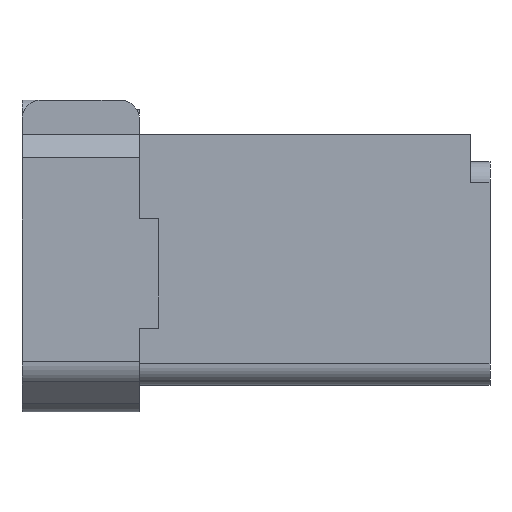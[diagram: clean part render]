
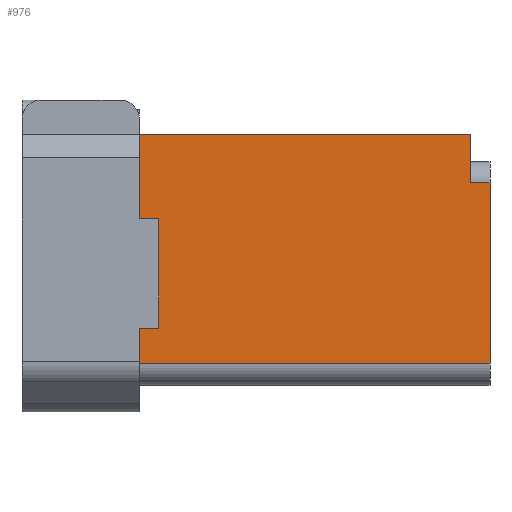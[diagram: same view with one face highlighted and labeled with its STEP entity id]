
A CAD part, front view. The second image highlights one B-rep face of the part: STEP entity #976.
In plain terms, the highlighted planar face has unit normal (0, -1, 0).
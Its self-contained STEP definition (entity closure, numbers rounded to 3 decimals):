
#247=CARTESIAN_POINT('Vertex',(-17.2,-13.9,-2.85)) ;
#250=CARTESIAN_POINT('Line Origine',(-17.2,-13.9,0.)) ;
#254=CARTESIAN_POINT('Vertex',(-17.2,-13.9,2.85)) ;
#269=CARTESIAN_POINT('Line Origine',(-17.7,-13.9,-2.85)) ;
#273=CARTESIAN_POINT('Vertex',(-18.2,-13.9,-2.85)) ;
#302=CARTESIAN_POINT('Line Origine',(-17.7,-13.9,2.85)) ;
#306=CARTESIAN_POINT('Vertex',(-18.2,-13.9,2.85)) ;
#333=CARTESIAN_POINT('Line Origine',(-18.2,-13.9,5.025)) ;
#337=CARTESIAN_POINT('Vertex',(-18.2,-13.9,7.2)) ;
#822=CARTESIAN_POINT('Vertex',(-1.,-13.9,7.2)) ;
#825=CARTESIAN_POINT('Line Origine',(-1.,-13.9,5.95)) ;
#829=CARTESIAN_POINT('Vertex',(-1.,-13.9,4.7)) ;
#881=CARTESIAN_POINT('Line Origine',(-9.1,-13.9,4.7)) ;
#885=CARTESIAN_POINT('Vertex',(0.,-13.9,4.7)) ;
#905=CARTESIAN_POINT('Line Origine',(-9.6,-13.9,7.2)) ;
#940=CARTESIAN_POINT('Axis2P3D Location',(0.,-13.9,-5.8)) ;
#945=CARTESIAN_POINT('Line Origine',(0.,-13.9,0.)) ;
#949=CARTESIAN_POINT('Vertex',(0.,-13.9,-4.7)) ;
#952=CARTESIAN_POINT('Line Origine',(-18.2,-13.9,-3.775)) ;
#956=CARTESIAN_POINT('Vertex',(-18.2,-13.9,-4.7)) ;
#959=CARTESIAN_POINT('Line Origine',(-9.1,-13.9,-4.7)) ;
#251=DIRECTION('Vector Direction',(0.,0.,1.)) ;
#270=DIRECTION('Vector Direction',(-1.,0.,0.)) ;
#303=DIRECTION('Vector Direction',(-1.,0.,0.)) ;
#334=DIRECTION('Vector Direction',(0.,0.,1.)) ;
#826=DIRECTION('Vector Direction',(0.,0.,1.)) ;
#882=DIRECTION('Vector Direction',(-1.,0.,0.)) ;
#906=DIRECTION('Vector Direction',(-1.,0.,0.)) ;
#941=DIRECTION('Axis2P3D Direction',(0.,-1.,0.)) ;
#942=DIRECTION('Axis2P3D XDirection',(0.,0.,1.)) ;
#946=DIRECTION('Vector Direction',(0.,0.,1.)) ;
#953=DIRECTION('Vector Direction',(0.,0.,1.)) ;
#960=DIRECTION('Vector Direction',(-1.,0.,0.)) ;
#943=AXIS2_PLACEMENT_3D('Plane Axis2P3D',#940,#941,#942) ;
#965=ORIENTED_EDGE('',*,*,#951,.F.) ;
#966=ORIENTED_EDGE('',*,*,#887,.T.) ;
#967=ORIENTED_EDGE('',*,*,#831,.F.) ;
#968=ORIENTED_EDGE('',*,*,#909,.T.) ;
#969=ORIENTED_EDGE('',*,*,#339,.F.) ;
#970=ORIENTED_EDGE('',*,*,#308,.F.) ;
#971=ORIENTED_EDGE('',*,*,#256,.F.) ;
#972=ORIENTED_EDGE('',*,*,#275,.T.) ;
#973=ORIENTED_EDGE('',*,*,#958,.F.) ;
#974=ORIENTED_EDGE('',*,*,#963,.F.) ;
#252=VECTOR('Line Direction',#251,1.) ;
#271=VECTOR('Line Direction',#270,1.) ;
#304=VECTOR('Line Direction',#303,1.) ;
#335=VECTOR('Line Direction',#334,1.) ;
#827=VECTOR('Line Direction',#826,1.) ;
#883=VECTOR('Line Direction',#882,1.) ;
#907=VECTOR('Line Direction',#906,1.) ;
#947=VECTOR('Line Direction',#946,1.) ;
#954=VECTOR('Line Direction',#953,1.) ;
#961=VECTOR('Line Direction',#960,1.) ;
#976=ADVANCED_FACE('BODY',(#975),#944,.T.) ;
#256=EDGE_CURVE('',#248,#255,#253,.T.) ;
#275=EDGE_CURVE('',#248,#274,#272,.T.) ;
#308=EDGE_CURVE('',#255,#307,#305,.T.) ;
#339=EDGE_CURVE('',#307,#338,#336,.T.) ;
#831=EDGE_CURVE('',#823,#830,#828,.F.) ;
#887=EDGE_CURVE('',#886,#830,#884,.T.) ;
#909=EDGE_CURVE('',#823,#338,#908,.T.) ;
#951=EDGE_CURVE('',#886,#950,#948,.F.) ;
#958=EDGE_CURVE('',#957,#274,#955,.T.) ;
#963=EDGE_CURVE('',#950,#957,#962,.T.) ;
#964=EDGE_LOOP('',(#965,#966,#967,#968,#969,#970,#971,#972,#973,#974)) ;
#975=FACE_OUTER_BOUND('',#964,.T.) ;
#253=LINE('Line',#250,#252) ;
#272=LINE('Line',#269,#271) ;
#305=LINE('Line',#302,#304) ;
#336=LINE('Line',#333,#335) ;
#828=LINE('Line',#825,#827) ;
#884=LINE('Line',#881,#883) ;
#908=LINE('Line',#905,#907) ;
#948=LINE('Line',#945,#947) ;
#955=LINE('Line',#952,#954) ;
#962=LINE('Line',#959,#961) ;
#944=PLANE('',#943) ;
#248=VERTEX_POINT('',#247) ;
#255=VERTEX_POINT('',#254) ;
#274=VERTEX_POINT('',#273) ;
#307=VERTEX_POINT('',#306) ;
#338=VERTEX_POINT('',#337) ;
#823=VERTEX_POINT('',#822) ;
#830=VERTEX_POINT('',#829) ;
#886=VERTEX_POINT('',#885) ;
#950=VERTEX_POINT('',#949) ;
#957=VERTEX_POINT('',#956) ;
